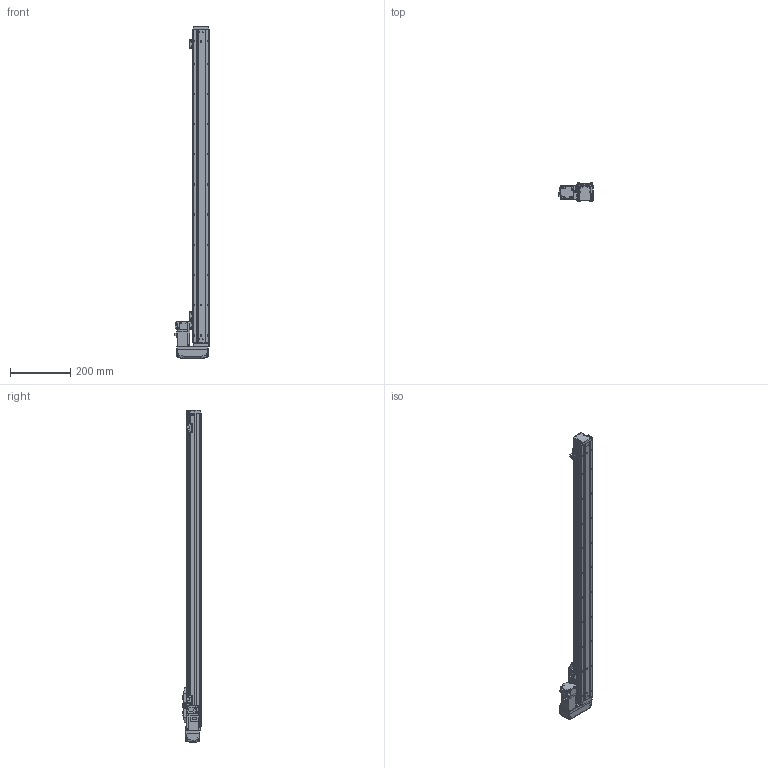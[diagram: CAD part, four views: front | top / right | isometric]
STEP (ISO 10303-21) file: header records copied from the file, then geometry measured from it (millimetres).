
FILE_DESCRIPTION (( 'STEP AP203' ), '1' );
FILE_NAME ('GTH5-900-BL-M10-C4.step', '2023-08-28T00:47:41', ( '微软用户' ), ( '微软中国' ), 'SwSTEP 2.0', 'SolidWorks 2020', '' );
FILE_SCHEMA (( 'CONFIG_CONTROL_DESIGN' ));
Length unit declared in the file: millimetre
Products named in the file (19): GTH50-001_900; GTH50-024; GTH50-028; GBT 70.1-M4×16; GBT 70.1-M2.5×6; GTH50-022-1; GTH50-003; HG-KR13; GTH50-006; GTH50-013; GTH50-027-1_BTHA50-027-2; GTH50-004; GTH50-023; GTH50-026; GBT 70.3-M3℅6; GBT 70.1-M3℅6; GTH5-900-BL-M10-C4; BTH-M3X5X6; GBT96.1-2002 3×0.8
Assembly tree (57 placements, depth 2):
  GTH5-900-BL-M10-C4
    GTH50-006
    GTH50-004
    GBT 70.3-M3℅6  x4
    BTH-M3X5X6  x8
    GTH50-001_900
    GBT 70.1-M4×16  x8
    GTH50-003
    GTH50-013
    GTH50-023  x3
    GBT 70.1-M3℅6  x12
    GBT96.1-2002 3×0.8  x6
    GTH50-024  x3
    GBT 70.1-M2.5×6  x2
    GTH50-028  x2
    GTH50-022-1
    HG-KR13
    GTH50-027-1_BTHA50-027-2
    GTH50-026
Bounding box: 113.8 x 60 x 1100 mm (x, y, z)
Volume: 2430380.9 mm3; surface area: 377491.3 mm2
Topology: 59 solids, 59 shells, 2172 faces, 5052 edges, 3100 vertices
Faces by surface type: plane 1142, cylinder 601, cone 219, torus 162, bspline 40, sphere 8
Entity records: 40604 total; most frequent: CARTESIAN_POINT 8019, DIRECTION 6269, ORIENTED_EDGE 6018, EDGE_CURVE 3009, AXIS2_PLACEMENT_3D 2188, VERTEX_POINT 1902, VECTOR 1893, LINE 1893
